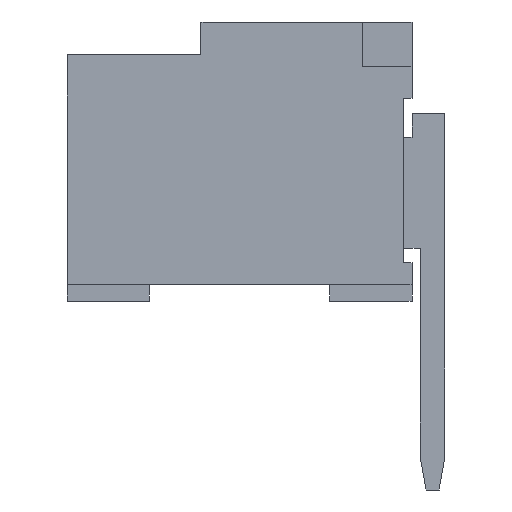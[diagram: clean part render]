
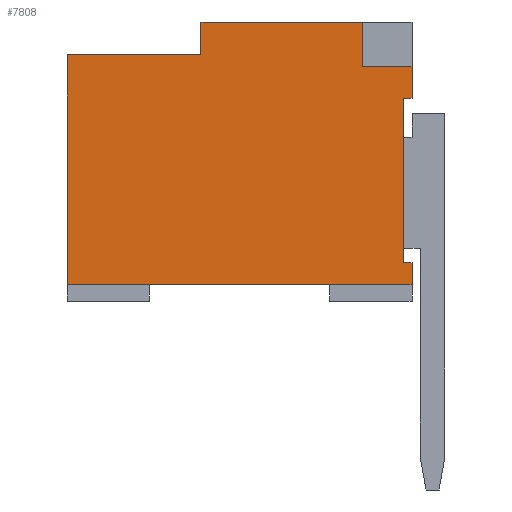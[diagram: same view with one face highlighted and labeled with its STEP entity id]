
A CAD part, left-side view. The second image highlights one B-rep face of the part: STEP entity #7808.
In plain terms, the highlighted planar face has unit normal (-1, 0, 0).
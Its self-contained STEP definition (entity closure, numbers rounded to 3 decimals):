
#1=DIRECTION('',(0.,1.,0.));
#2=VECTOR('',#1,0.6);
#3=CARTESIAN_POINT('',(0.,-4.2,-0.54));
#4=LINE('',#3,#2);
#5=DIRECTION('',(0.,0.,-1.));
#6=VECTOR('',#5,0.39);
#7=CARTESIAN_POINT('',(0.,-4.2,-0.54));
#8=LINE('',#7,#6);
#9=DIRECTION('',(0.,1.,0.));
#10=VECTOR('',#9,0.1);
#11=CARTESIAN_POINT('',(0.,-4.2,-0.93));
#12=LINE('',#11,#10);
#13=DIRECTION('',(0.,0.,1.));
#14=VECTOR('',#13,2.);
#15=CARTESIAN_POINT('',(0.,-4.1,-2.93));
#16=LINE('',#15,#14);
#17=DIRECTION('',(0.,1.,0.));
#18=VECTOR('',#17,0.1);
#19=CARTESIAN_POINT('',(0.,-4.2,-2.93));
#20=LINE('',#19,#18);
#21=DIRECTION('',(0.,0.,-1.));
#22=VECTOR('',#21,0.27);
#23=CARTESIAN_POINT('',(0.,-4.2,-2.93));
#24=LINE('',#23,#22);
#25=DIRECTION('',(0.,1.,0.));
#26=VECTOR('',#25,4.2);
#27=CARTESIAN_POINT('',(0.,-4.2,-3.2));
#28=LINE('',#27,#26);
#29=DIRECTION('',(0.,0.,1.));
#30=VECTOR('',#29,2.8);
#31=CARTESIAN_POINT('',(0.,0.,-3.2));
#32=LINE('',#31,#30);
#33=DIRECTION('',(0.,-1.,0.));
#34=VECTOR('',#33,1.63);
#35=CARTESIAN_POINT('',(0.,0.,-0.4));
#36=LINE('',#35,#34);
#37=DIRECTION('',(0.,0.,-1.));
#38=VECTOR('',#37,0.4);
#39=CARTESIAN_POINT('',(0.,-1.63,0.));
#40=LINE('',#39,#38);
#41=DIRECTION('',(0.,-1.,0.));
#42=VECTOR('',#41,1.97);
#43=CARTESIAN_POINT('',(0.,-1.63,0.));
#44=LINE('',#43,#42);
#45=DIRECTION('',(0.,0.,-1.));
#46=VECTOR('',#45,0.54);
#47=CARTESIAN_POINT('',(0.,-3.6,0.));
#48=LINE('',#47,#46);
#5877=CARTESIAN_POINT('',(0.,-4.2,-3.2));
#5878=CARTESIAN_POINT('',(0.,0.,-3.2));
#5879=VERTEX_POINT('',#5877);
#5880=VERTEX_POINT('',#5878);
#5885=CARTESIAN_POINT('',(0.,-1.63,0.));
#5886=CARTESIAN_POINT('',(0.,-1.63,-0.4));
#5887=VERTEX_POINT('',#5885);
#5888=VERTEX_POINT('',#5886);
#5889=CARTESIAN_POINT('',(0.,0.,-0.4));
#5890=VERTEX_POINT('',#5889);
#5891=CARTESIAN_POINT('',(0.,-4.2,-2.93));
#5892=CARTESIAN_POINT('',(0.,-4.1,-2.93));
#5893=VERTEX_POINT('',#5891);
#5894=VERTEX_POINT('',#5892);
#5895=CARTESIAN_POINT('',(0.,-4.1,-0.93));
#5896=VERTEX_POINT('',#5895);
#5897=CARTESIAN_POINT('',(0.,-4.2,-0.93));
#5898=VERTEX_POINT('',#5897);
#6109=CARTESIAN_POINT('',(0.,-4.2,-0.54));
#6110=CARTESIAN_POINT('',(0.,-3.6,-0.54));
#6111=VERTEX_POINT('',#6109);
#6112=VERTEX_POINT('',#6110);
#6113=CARTESIAN_POINT('',(0.,-3.6,0.));
#6114=VERTEX_POINT('',#6113);
#7777=CARTESIAN_POINT('',(0.,0.,0.));
#7778=DIRECTION('',(1.,0.,0.));
#7779=DIRECTION('',(0.,-1.,0.));
#7780=AXIS2_PLACEMENT_3D('',#7777,#7778,#7779);
#7781=PLANE('',#7780);
#7783=ORIENTED_EDGE('',*,*,#7782,.F.);
#7785=ORIENTED_EDGE('',*,*,#7784,.T.);
#7787=ORIENTED_EDGE('',*,*,#7786,.T.);
#7789=ORIENTED_EDGE('',*,*,#7788,.F.);
#7791=ORIENTED_EDGE('',*,*,#7790,.F.);
#7793=ORIENTED_EDGE('',*,*,#7792,.T.);
#7795=ORIENTED_EDGE('',*,*,#7794,.T.);
#7797=ORIENTED_EDGE('',*,*,#7796,.T.);
#7799=ORIENTED_EDGE('',*,*,#7798,.T.);
#7801=ORIENTED_EDGE('',*,*,#7800,.F.);
#7803=ORIENTED_EDGE('',*,*,#7802,.T.);
#7805=ORIENTED_EDGE('',*,*,#7804,.T.);
#7806=EDGE_LOOP('',(#7783,#7785,#7787,#7789,#7791,#7793,#7795,#7797,#7799,#7801,
#7803,#7805));
#7807=FACE_OUTER_BOUND('',#7806,.F.);
#7808=ADVANCED_FACE('',(#7807),#7781,.F.);
#7782=EDGE_CURVE('',#6111,#6112,#4,.T.);
#7784=EDGE_CURVE('',#6111,#5898,#8,.T.);
#7786=EDGE_CURVE('',#5898,#5896,#12,.T.);
#7788=EDGE_CURVE('',#5894,#5896,#16,.T.);
#7790=EDGE_CURVE('',#5893,#5894,#20,.T.);
#7792=EDGE_CURVE('',#5893,#5879,#24,.T.);
#7794=EDGE_CURVE('',#5879,#5880,#28,.T.);
#7796=EDGE_CURVE('',#5880,#5890,#32,.T.);
#7798=EDGE_CURVE('',#5890,#5888,#36,.T.);
#7800=EDGE_CURVE('',#5887,#5888,#40,.T.);
#7802=EDGE_CURVE('',#5887,#6114,#44,.T.);
#7804=EDGE_CURVE('',#6114,#6112,#48,.T.);
